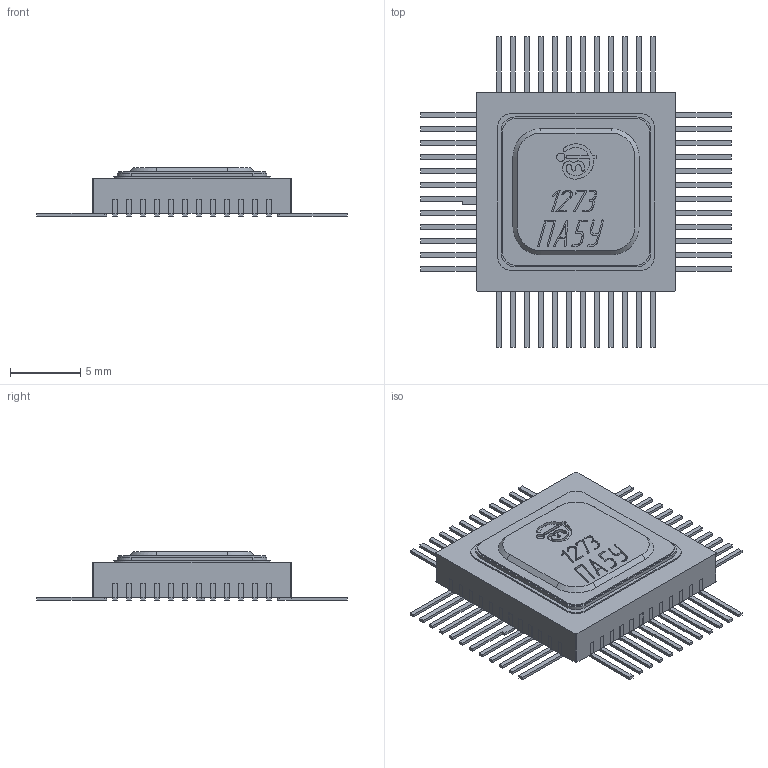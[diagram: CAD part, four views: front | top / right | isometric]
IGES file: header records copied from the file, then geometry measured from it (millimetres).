
Start section: IGES file generated from Kompas 1.1 for Windows drawing by the IGES translator from Ascon Ltd., translator version IGESOUT-5.1.
Global section: file name: D:\Work\3D\5133.48-3\1273ÏÀ5Ó.igs; native system: Kompas( 32 bit ) for Windows; preprocessor: 1.0; author: Âîðîíîâ; organization: unknown; date: -17811112:080720; units: millimetre
Bounding box: 22.2 x 22.2 x 3.46 mm (x, y, z)
Volume: 592.2 mm3; surface area: 1350 mm2
Topology: 160 solids, 160 shells, 1481 faces, 3444 edges, 2296 vertices
Faces by surface type: bspline 1251, revolution 220, extrusion 10
